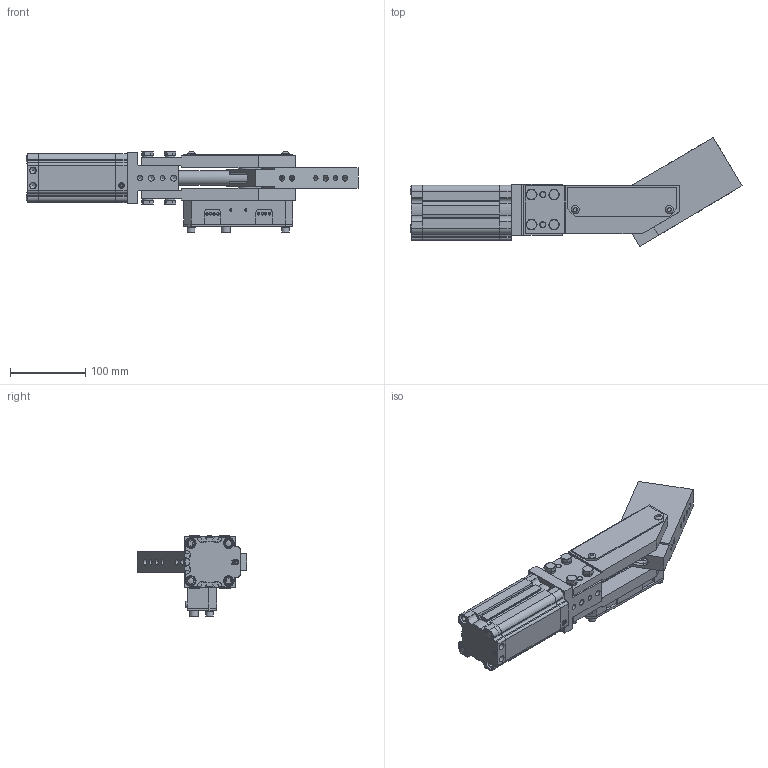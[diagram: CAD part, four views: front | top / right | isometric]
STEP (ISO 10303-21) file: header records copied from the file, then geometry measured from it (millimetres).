
FILE_DESCRIPTION(/* description */ ('PART EJECTOR'),/* implementation_level */ '2;1');
FILE_NAME(/* name */ 'C:\Users\rcarver\Desktop\MPE\MPE030A30ARA00-EXTENDED.stp',/* time_stamp */ '2016-05-25T10:25:11-04:00',/* author */ ('rcarver'),/* organization */ (''),/* preprocessor_version */ 'ST-DEVELOPER v16.5',/* originating_system */ 'Autodesk Inventor 2017',/* authorisation */ '');
FILE_SCHEMA (('AUTOMOTIVE_DESIGN { 1 0 10303 214 3 1 1 }'));
Products named in the file (48): MPE30L01; WCW2148E02-075; MPE30E03N; MPE30E03G; MPE30E09; MPE30E06; MPE30E07; MPE30E08; MPE30E12; WCW2148E04; WCW2148E01; FEF-405-1; GSI-1214-16; M8X1.25-25 HEX; NL8; MPE30E16; 0.500-20 HEXJAMNUT; 0.062-27 NPT PLUG; PLH005A; MA1500x2.00DIA; MC0750X1000-125N; OR-032-RADIAL; OR-011-FACE; TSP-326BN70; TSR-075BN70; TSI-1214-06; M5X0.8-120 SHCS; M6X1-10 BHCS; 0.500X1.000 DOWEL; NL5SP; M6X1-135 SHCS; 0.50ID-SAE; MOR-2.0X016.0bn70; 8mmX20 ; MPE30E10; MPE30E11; SEE SWITCH CHART; S01; S02; PIN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
Assembly tree (90 placements, depth 2):
  MPE30L01
    WCW2148E02-075
    MPE30E03N
    MPE30E03G
    MPE30E09
    MPE30E06  x2
    MPE30E07
    MPE30E08
    MPE30E12
    WCW2148E04
    WCW2148E01
    FEF-405-1  x2
    GSI-1214-16  x2
    M8X1.25-25 HEX  x8
    NL8  x8
    MPE30E16  x4
    0.500-20 HEXJAMNUT
    0.062-27 NPT PLUG
    PLH005A  x2
    MA1500x2.00DIA
    MC0750X1000-125N  x2
    OR-032-RADIAL  x2
    OR-011-FACE  x2
    TSP-326BN70
    TSR-075BN70
    TSI-1214-06
    M5X0.8-120 SHCS  x2
    M6X1-10 BHCS  x4
    0.500X1.000 DOWEL
    NL5SP  x2
    M6X1-135 SHCS  x2
    NL6  x4
    0.50ID-SAE
    MOR-2.0X016.0bn70
    8mmX20   x2
    MPE30E10
    MPE30E11
    SEE SWITCH CHART
    PIN  x4
    S01
    S02
    MPE30E13
    M5X0.8-25 SHCS
    M6X1-50 SHCS  x2
    90692A694  x2
    MPE30E14  x2
    SH-50  x4
    MPE30E15
Bounding box: 440.59 x 145.13 x 107.43 mm (x, y, z)
Volume: 1359097.4 mm3; surface area: 432189.2 mm2
Topology: 90 solids, 170 shells, 1688 faces, 4159 edges, 2856 vertices
Faces by surface type: plane 823, cylinder 501, cone 177, bspline 159, torus 21, sphere 7
Full cylindrical faces by diameter (mm): 0.01 x1, 1.191 x4, 2 x2, 2.01 x2, 2.4 x8, 3 x2, 3.175 x12, 3.2 x4, 4.134 x3, 4.75 x2, 4.917 x12, 4.978 x4, 5 x3, 5.4 x2, 5.5 x4, 5.944 x1, 6 x11, 6.35 x1, 6.5 x20, 6.647 x14, 7.5 x4, 7.95 x2, 8 x29, 8.05 x2, 8.5 x13, 8.7 x8, 10 x4, 10.5 x4, 10.8 x4, 10.9 x2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
Entity records: 38464 total; most frequent: CARTESIAN_POINT 8664, DIRECTION 5638, ORIENTED_EDGE 5292, EDGE_CURVE 2694, AXIS2_PLACEMENT_3D 2084, VERTEX_POINT 1982, EDGE_LOOP 1852, LINE 1470
